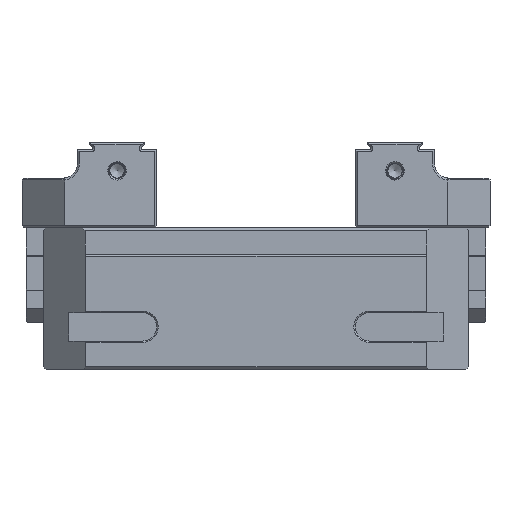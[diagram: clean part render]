
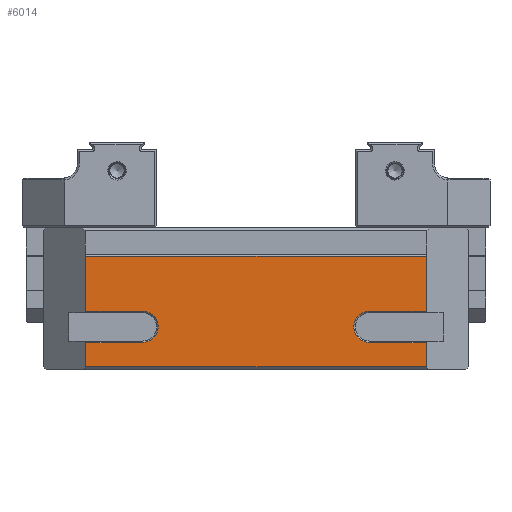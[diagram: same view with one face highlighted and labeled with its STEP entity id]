
A CAD part, left-side view. The second image highlights one B-rep face of the part: STEP entity #6014.
In plain terms, the highlighted planar face has unit normal (-1, 0, 0).
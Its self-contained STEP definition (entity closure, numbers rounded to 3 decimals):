
#2526=FACE_OUTER_BOUND('',#7617,.T.);
#3129=PLANE('',#16618);
#3710=LINE('',#31193,#4897);
#3711=LINE('',#31196,#4898);
#3712=LINE('',#31198,#4899);
#3713=LINE('',#31204,#4900);
#3714=LINE('',#31206,#4901);
#3715=LINE('',#31208,#4902);
#3716=LINE('',#31210,#4903);
#3717=LINE('',#31212,#4904);
#3718=LINE('',#31218,#4905);
#3719=LINE('',#31220,#4906);
#4897=VECTOR('',#18510,1.);
#4898=VECTOR('',#18511,1.);
#4899=VECTOR('',#18512,1.);
#4900=VECTOR('',#18517,1.);
#4901=VECTOR('',#18518,1.);
#4902=VECTOR('',#18519,1.);
#4903=VECTOR('',#18520,1.);
#4904=VECTOR('',#18521,1.);
#4905=VECTOR('',#18526,1.);
#4906=VECTOR('',#18527,1.);
#6014=ADVANCED_FACE('',(#2526),#3129,.T.);
#7617=EDGE_LOOP('',(#9248,#9249,#9250,#9251,#9252,#9253,#9254,#9255,#9256,
#9257,#9258,#9259,#9260,#9261));
#9248=ORIENTED_EDGE('',*,*,#14299,.T.);
#9249=ORIENTED_EDGE('',*,*,#14300,.T.);
#9250=ORIENTED_EDGE('',*,*,#14301,.T.);
#9251=ORIENTED_EDGE('',*,*,#14302,.T.);
#9252=ORIENTED_EDGE('',*,*,#14303,.T.);
#9253=ORIENTED_EDGE('',*,*,#14304,.T.);
#9254=ORIENTED_EDGE('',*,*,#14305,.T.);
#9255=ORIENTED_EDGE('',*,*,#14306,.T.);
#9256=ORIENTED_EDGE('',*,*,#14307,.T.);
#9257=ORIENTED_EDGE('',*,*,#14308,.T.);
#9258=ORIENTED_EDGE('',*,*,#14309,.T.);
#9259=ORIENTED_EDGE('',*,*,#14310,.T.);
#9260=ORIENTED_EDGE('',*,*,#14311,.T.);
#9261=ORIENTED_EDGE('',*,*,#14312,.T.);
#12797=VERTEX_POINT('',#31194);
#12798=VERTEX_POINT('',#31195);
#12799=VERTEX_POINT('',#31197);
#12800=VERTEX_POINT('',#31199);
#12801=VERTEX_POINT('',#31201);
#12802=VERTEX_POINT('',#31203);
#12803=VERTEX_POINT('',#31205);
#12804=VERTEX_POINT('',#31207);
#12805=VERTEX_POINT('',#31209);
#12806=VERTEX_POINT('',#31211);
#12807=VERTEX_POINT('',#31213);
#12808=VERTEX_POINT('',#31215);
#12809=VERTEX_POINT('',#31217);
#12810=VERTEX_POINT('',#31219);
#14299=EDGE_CURVE('',#12797,#12798,#3710,.T.);
#14300=EDGE_CURVE('',#12798,#12799,#3711,.T.);
#14301=EDGE_CURVE('',#12799,#12800,#3712,.T.);
#14302=EDGE_CURVE('',#12800,#12801,#15978,.T.);
#14303=EDGE_CURVE('',#12801,#12802,#15979,.T.);
#14304=EDGE_CURVE('',#12802,#12803,#3713,.T.);
#14305=EDGE_CURVE('',#12803,#12804,#3714,.T.);
#14306=EDGE_CURVE('',#12804,#12805,#3715,.T.);
#14307=EDGE_CURVE('',#12805,#12806,#3716,.T.);
#14308=EDGE_CURVE('',#12806,#12807,#3717,.T.);
#14309=EDGE_CURVE('',#12807,#12808,#15980,.T.);
#14310=EDGE_CURVE('',#12808,#12809,#15981,.T.);
#14311=EDGE_CURVE('',#12809,#12810,#3718,.T.);
#14312=EDGE_CURVE('',#12810,#12797,#3719,.T.);
#15978=CIRCLE('',#16614,5.5);
#15979=CIRCLE('',#16615,5.5);
#15980=CIRCLE('',#16616,5.5);
#15981=CIRCLE('',#16617,5.5);
#16614=AXIS2_PLACEMENT_3D('',#31200,#18513,#18514);
#16615=AXIS2_PLACEMENT_3D('',#31202,#18515,#18516);
#16616=AXIS2_PLACEMENT_3D('',#31214,#18522,#18523);
#16617=AXIS2_PLACEMENT_3D('',#31216,#18524,#18525);
#16618=AXIS2_PLACEMENT_3D('',#31221,#18528,#18529);
#18510=DIRECTION('',(0.,-1.,0.));
#18511=DIRECTION('',(0.,0.,1.));
#18512=DIRECTION('',(0.,1.,0.));
#18513=DIRECTION('',(1.,0.,0.));
#18514=DIRECTION('',(0.,0.,1.));
#18515=DIRECTION('',(1.,0.,0.));
#18516=DIRECTION('',(0.,0.,1.));
#18517=DIRECTION('',(0.,-1.,0.));
#18518=DIRECTION('',(0.,0.,1.));
#18519=DIRECTION('',(0.,1.,0.));
#18520=DIRECTION('',(0.,0.,-1.));
#18521=DIRECTION('',(0.,-1.,0.));
#18522=DIRECTION('',(1.,0.,0.));
#18523=DIRECTION('',(0.,0.,1.));
#18524=DIRECTION('',(1.,0.,0.));
#18525=DIRECTION('',(0.,0.,1.));
#18526=DIRECTION('',(0.,1.,0.));
#18527=DIRECTION('',(0.,0.,-1.));
#18528=DIRECTION('',(-1.,0.,0.));
#18529=DIRECTION('',(0.,0.,-1.));
#31193=CARTESIAN_POINT('',(-62.5,0.,1.));
#31194=CARTESIAN_POINT('',(-62.5,60.,1.));
#31195=CARTESIAN_POINT('',(-62.5,-60.,1.));
#31196=CARTESIAN_POINT('',(-62.5,-60.,234.));
#31197=CARTESIAN_POINT('',(-62.5,-60.,9.5));
#31198=CARTESIAN_POINT('',(-62.5,-40.,9.5));
#31199=CARTESIAN_POINT('',(-62.5,-40.,9.5));
#31200=CARTESIAN_POINT('',(-62.5,-40.,15.));
#31201=CARTESIAN_POINT('',(-62.5,-34.5,15.));
#31202=CARTESIAN_POINT('',(-62.5,-40.,15.));
#31203=CARTESIAN_POINT('',(-62.5,-40.,20.5));
#31204=CARTESIAN_POINT('',(-62.5,-68.,20.5));
#31205=CARTESIAN_POINT('',(-62.5,-60.,20.5));
#31206=CARTESIAN_POINT('',(-62.5,-60.,234.));
#31207=CARTESIAN_POINT('',(-62.5,-60.,40.));
#31208=CARTESIAN_POINT('',(-62.5,0.,40.));
#31209=CARTESIAN_POINT('',(-62.5,60.,40.));
#31210=CARTESIAN_POINT('',(-62.5,60.,234.));
#31211=CARTESIAN_POINT('',(-62.5,60.,20.5));
#31212=CARTESIAN_POINT('',(-62.5,40.,20.5));
#31213=CARTESIAN_POINT('',(-62.5,40.,20.5));
#31214=CARTESIAN_POINT('',(-62.5,40.,15.));
#31215=CARTESIAN_POINT('',(-62.5,34.5,15.));
#31216=CARTESIAN_POINT('',(-62.5,40.,15.));
#31217=CARTESIAN_POINT('',(-62.5,40.,9.5));
#31218=CARTESIAN_POINT('',(-62.5,68.,9.5));
#31219=CARTESIAN_POINT('',(-62.5,60.,9.5));
#31220=CARTESIAN_POINT('',(-62.5,60.,234.));
#31221=CARTESIAN_POINT('',(-62.5,0.,234.));
